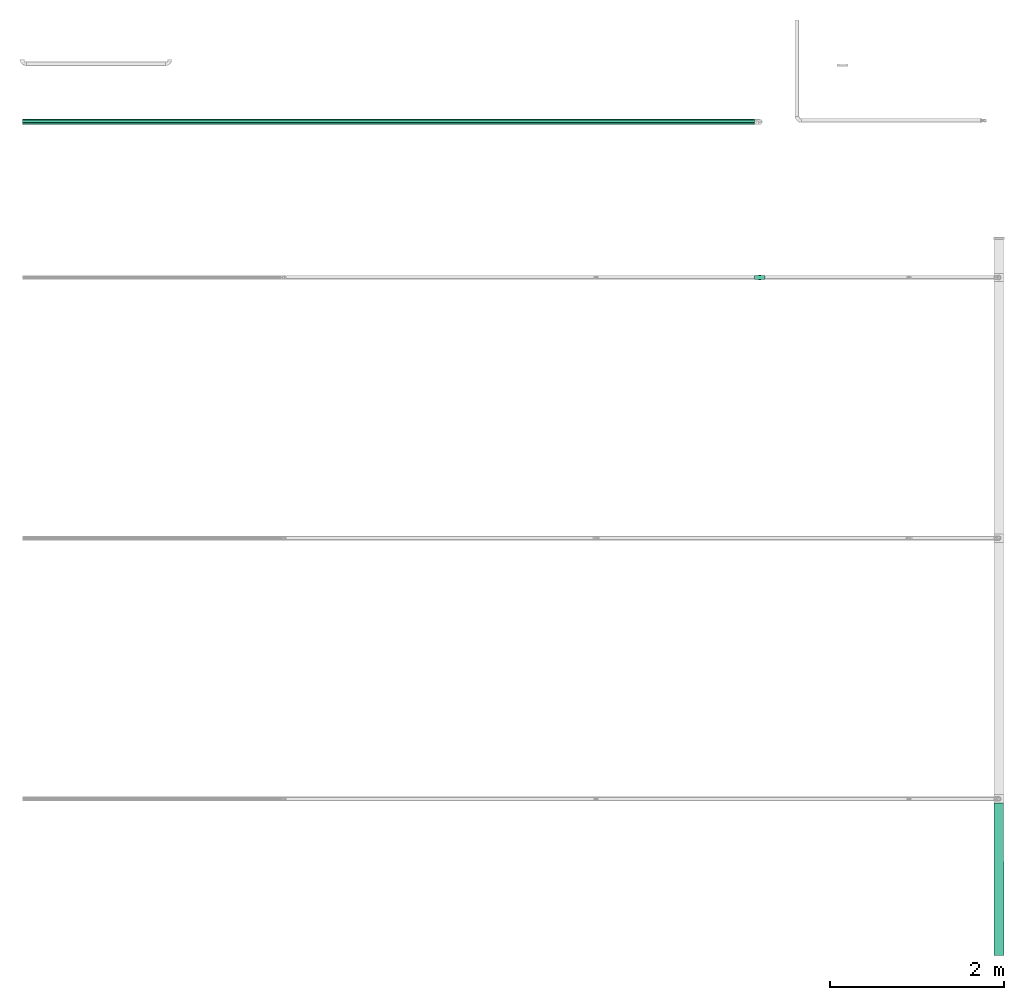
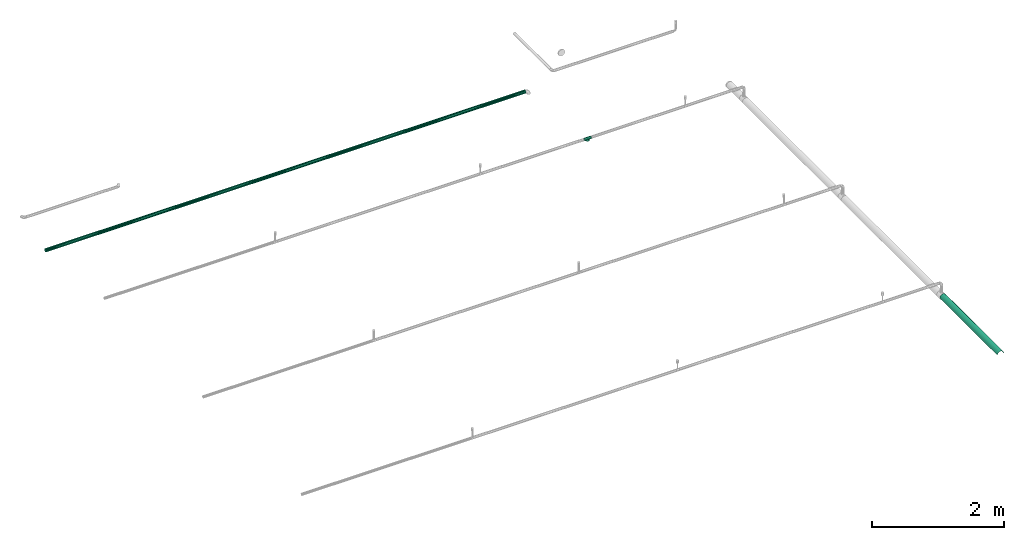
# One storey, part 14 of 14: 2 flow segments, 1 flow fitting.
"""IFC2X3 building model written with IfcOpenShell, lengths in millimetres."""

from ifc_helpers import new_model, entity, si_unit, converted_unit, derived_unit, direction, frame, origin_with_axes, place, context, subcontext, project, spatial, open_shell, faceted_brep, surface_model, source, transform, mapped, type_object, element, save


model = new_model("IFC2X3")

# Units and contexts
model_context = context("Model", 3, precision=0.01, world=frame((0.0, 4.29681676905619e-09, 0.0)), true_north=direction((4.01073788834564e-13, 1.0)))
plan_context = context("Plan", 3, precision=0.01, world=frame((0.0, 4.29681676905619e-09, 0.0)), true_north=direction((4.01073788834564e-13, 1.0)))
body_context = subcontext(model_context, "Body", "Model", "MODEL_VIEW")
ifc_project = project(units=[converted_unit("PLANEANGLEUNIT", "DEGREE", entity("IfcPositiveLengthMeasure", 0.0174532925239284), si_unit("PLANEANGLEUNIT", "RADIAN"), dimensions=[0, 0, 0, 0, 0, 0, 0]), si_unit("AREAUNIT", "SQUARE_METRE"), si_unit("LENGTHUNIT", "METRE", prefix="MILLI"), si_unit("MASSUNIT", "GRAM", prefix="KILO"), si_unit("POWERUNIT", "WATT"), si_unit("PRESSUREUNIT", "PASCAL"), si_unit("FORCEUNIT", "NEWTON", prefix="KILO"), si_unit("ELECTRICVOLTAGEUNIT", "VOLT"), si_unit("ELECTRICCURRENTUNIT", "AMPERE"), si_unit("THERMODYNAMICTEMPERATUREUNIT", "DEGREE_CELSIUS"), si_unit("TIMEUNIT", "SECOND"), si_unit("VOLUMEUNIT", "CUBIC_METRE"), derived_unit("LINEARVELOCITYUNIT", [(si_unit("LENGTHUNIT", "METRE"), 1), (si_unit("TIMEUNIT", "SECOND"), -1)]), derived_unit("VOLUMETRICFLOWRATEUNIT", [(si_unit("VOLUMEUNIT", "CUBIC_METRE"), 1), (si_unit("TIMEUNIT", "SECOND"), -1)]), derived_unit("THERMALTRANSMITTANCEUNIT", [(si_unit("POWERUNIT", "WATT"), 1), (si_unit("THERMODYNAMICTEMPERATUREUNIT", "KELVIN"), -1), (si_unit("AREAUNIT", "SQUARE_METRE"), -1)]), derived_unit("SOUNDPRESSUREUNIT", [(si_unit("PRESSUREUNIT", "PASCAL"), 1)])], contexts=[model_context, plan_context])

# Site, building, storey
site_placement = place(None, frame((0.0, -4.29681676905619e-09, 0.0), z_axis=(0.0, 0.0, 1.0), x_axis=(1.0, 0.0, 0.0)))
site = spatial("IfcSite", under=ifc_project, at=site_placement, CompositionType="ELEMENT")
building_placement = place(site_placement, frame((0.0, 4.29681676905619e-09, 0.0), z_axis=(0.0, 0.0, 1.0), x_axis=(1.0, 0.0, 0.0)))
building = spatial("IfcBuilding", under=site, at=building_placement, Name="mc-building", CompositionType="ELEMENT")
storey_placement = place(building_placement, frame((0.0, 0.0, 204000.0), z_axis=(0.0, 0.0, 1.0), x_axis=(1.0, 0.0, 0.0)))
storey = spatial("IfcBuildingStorey", under=building, at=storey_placement, Name="Nivå D", CompositionType="ELEMENT", Elevation=204000.0)

# Flow fitting
pipe_fitting_type = type_object("IfcPipeFittingType", Name="magi_pipe_fe_tee_centric_90_NOR", PredefinedType="JUNCTION")
shared_shape = source(origin_with_axes(), body_context, "Body", "SurfaceModel", [
    surface_model("IfcShellBasedSurfaceModel", [(-60.4, 0.0, -24.2), (-60.4, -6.26342, -23.37541), (-60.4, 6.26342, -23.37541), (-60.4, 12.1, -20.95781), (-60.4, 17.11198, -17.11198), (-60.4, 20.95781, -12.1), (-60.4, -23.37541, -6.26342), (-60.4, 23.37541, -6.26342), (-60.4, -12.1, -20.95781), (-60.4, -17.11198, -17.11198), (-60.4, -20.95781, -12.1), (-60.4, -24.2, 0.0), (-60.4, -23.37541, 6.26342), (-60.4, 20.95781, 12.1), (-60.4, 23.37541, 6.26342), (-60.4, 24.2, 0.0), (-60.4, 12.1, 20.95781), (-60.4, 17.11198, 17.11198), (-60.4, -17.11198, 17.11198), (-60.4, 6.26342, 23.37541), (-60.4, -20.95781, 12.1), (-60.4, -12.1, 20.95781), (-60.4, -6.26342, 23.37541), (-60.4, 0.0, 24.2), (60.4, 6.26342, -23.37541), (60.4, -6.26342, -23.37541), (60.4, 0.0, -24.2), (60.4, 17.11198, -17.11198), (60.4, 12.1, -20.95781), (60.4, -23.37541, -6.26342), (60.4, 20.95781, -12.1), (60.4, 23.37541, -6.26342), (60.4, -17.11198, -17.11198), (60.4, -12.1, -20.95781), (60.4, -20.95781, -12.1), (60.4, -24.2, 0.0), (60.4, 24.2, 0.0), (60.4, 23.37541, 6.26342), (60.4, 20.95781, 12.1), (60.4, -23.37541, 6.26342), (60.4, -17.11198, 17.11198), (60.4, 12.1, 20.95781), (60.4, 17.11198, 17.11198), (60.4, 6.26342, 23.37541), (60.4, -20.95781, 12.1), (60.4, -12.1, 20.95781), (60.4, 0.0, 24.2), (60.4, -6.26342, 23.37541), (29.66166, -23.52475, 5.67681), (60.4, -22.16661, 9.18171), (28.171, -21.61493, 10.88277), (28.91633, -22.56984, 8.27979), (30.2, -24.2, 0.0), (23.50262, -15.0324, 18.96489), (60.4, -14.60599, 19.0349), (26.01203, -18.71432, 15.34322), (60.4, -19.0349, 14.60599), (24.75732, -16.87336, 17.15405), (27.09151, -20.16463, 13.11299), (-28.171, -21.61493, 10.88277), (-27.09151, -20.16463, 13.11299), (-60.4, -22.16661, 9.18171), (-28.91633, -22.56984, 8.27979), (-29.66166, -23.52475, 5.67681), (-30.2, -24.2, 0.0), (20.98199, -10.66977, 21.72086), (60.4, -9.18171, 22.16661), (-23.50262, -15.0324, 18.96489), (-20.98199, -10.66977, 21.72086), (-24.75732, -16.87336, 17.15405), (-60.4, -19.0349, 14.60599), (-60.4, -14.60599, 19.0349), (-60.4, -9.18171, 22.16661), (-26.01203, -18.71432, 15.34322), (18.92265, -5.62732, 23.53664), (18.06654, 0.0, 24.2), (-18.06654, 0.0, 24.2), (-18.92265, -5.62732, 23.53664), (18.92265, -5.62732, -23.53664), (18.06654, 0.0, -24.2), (-27.09151, -20.16463, -13.11299), (-60.4, -19.0349, -14.60599), (-26.01203, -18.71432, -15.34322), (-20.98199, -10.66977, -21.72086), (-60.4, -9.18171, -22.16661), (-18.06654, 0.0, -24.2), (-18.92265, -5.62732, -23.53664), (-28.91633, -22.56984, -8.27979), (-29.66166, -23.52475, -5.67681), (-23.50262, -15.0324, -18.96489), (-60.4, -14.60599, -19.0349), (60.4, -9.18171, -22.16661), (27.09151, -20.16463, -13.11299), (60.4, -19.0349, -14.60599), (23.50262, -15.0324, -18.96489), (60.4, -14.60599, -19.0349), (24.75732, -16.87336, -17.15405), (28.171, -21.61493, -10.88277), (60.4, -22.16661, -9.18171), (20.98199, -10.66977, -21.72086), (26.01203, -18.71432, -15.34322), (29.66166, -23.52475, -5.67681), (28.91633, -22.56984, -8.27979), (-24.75732, -16.87336, -17.15405), (-60.4, -22.16661, -9.18171), (-28.171, -21.61493, -10.88277), (-21.35462, -36.3, -21.35462), (0.0, -36.3, -30.2), (7.81634, -36.3, -29.17096), (15.1, -36.3, -26.15397), (-30.2, -36.3, 0.0), (26.15397, -36.3, -15.1), (21.35462, -36.3, -21.35462), (26.15397, -36.3, 15.1), (-7.81634, -36.3, -29.17096), (-15.1, -36.3, -26.15397), (-29.17096, -36.3, -7.81634), (-26.15397, -36.3, -15.1), (29.17096, -36.3, -7.81634), (30.2, -36.3, 0.0), (29.17096, -36.3, 7.81634), (7.81634, -36.3, 29.17096), (15.1, -36.3, 26.15397), (21.35462, -36.3, 21.35462), (-21.35462, -36.3, 21.35462), (-26.15397, -36.3, 15.1), (-29.17096, -36.3, 7.81634), (-15.1, -36.3, 26.15397), (0.0, -36.3, 30.2), (-7.81634, -36.3, 29.17096), (-12.51737, 0.0, 27.48373), (-6.40442, 0.0, 29.5131), (-0.00041, 0.0, 30.2), (12.5156, 0.0, 27.48454), (6.403, 0.0, 29.51341), (12.5156, 0.0, -27.48454), (6.403, 0.0, -29.51341), (-0.00041, 0.0, -30.2), (-12.51737, 0.0, -27.48373), (-6.40442, 0.0, -29.5131)], [open_shell([[[0, 1, 2]], [[3, 2, 4]], [[5, 2, 6]], [[4, 2, 5]], [[7, 5, 6]], [[8, 9, 1]], [[10, 1, 9]], [[1, 10, 2]], [[10, 6, 2]], [[6, 11, 7]], [[11, 12, 7]], [[13, 14, 15]], [[13, 15, 12]], [[16, 17, 18]], [[12, 17, 13]], [[19, 16, 18]], [[20, 18, 12]], [[18, 17, 12]], [[21, 22, 18]], [[23, 18, 22]], [[18, 23, 19]], [[7, 12, 15]], [[24, 25, 26]], [[27, 24, 28]], [[29, 24, 30]], [[30, 24, 27]], [[29, 30, 31]], [[25, 32, 33]], [[32, 25, 34]], [[24, 34, 25]], [[24, 29, 34]], [[31, 35, 29]], [[31, 36, 35]], [[36, 37, 38]], [[39, 36, 38]], [[40, 38, 41]], [[41, 38, 42]], [[40, 41, 43]], [[39, 40, 44]], [[39, 38, 40]], [[45, 46, 47]], [[46, 45, 40]], [[43, 46, 40]], [[36, 39, 35]], [[35, 39, 48]], [[49, 50, 51]], [[48, 52, 35]], [[39, 49, 51]], [[53, 40, 54]], [[49, 44, 50]], [[54, 45, 53]], [[40, 55, 56]], [[55, 40, 57]], [[39, 51, 48]], [[44, 58, 50]], [[20, 59, 60]], [[40, 53, 57]], [[59, 61, 62]], [[12, 62, 61]], [[63, 11, 64]], [[11, 63, 12]], [[12, 63, 62]], [[65, 45, 66]], [[58, 56, 55]], [[56, 58, 44]], [[67, 68, 21]], [[69, 67, 18]], [[70, 20, 60]], [[18, 67, 71]], [[68, 72, 21]], [[70, 60, 73]], [[18, 73, 69]], [[53, 45, 65]], [[74, 46, 75]], [[66, 74, 65]], [[74, 66, 47]], [[74, 47, 46]], [[73, 18, 70]], [[75, 46, 43]], [[38, 37, 14]], [[17, 41, 42]], [[13, 42, 38]], [[43, 41, 16]], [[15, 37, 36]], [[23, 76, 19]], [[67, 21, 71]], [[22, 77, 23]], [[72, 77, 22]], [[23, 77, 76]], [[76, 75, 19]], [[77, 72, 68]], [[43, 19, 75]], [[16, 19, 43]], [[16, 41, 17]], [[13, 17, 42]], [[14, 13, 38]], [[37, 15, 14]], [[59, 20, 61]], [[27, 4, 30]], [[31, 7, 36]], [[31, 30, 5]], [[3, 27, 28]], [[26, 25, 78]], [[26, 79, 24]], [[79, 26, 78]], [[80, 81, 82]], [[28, 24, 2]], [[83, 8, 84]], [[79, 85, 24]], [[7, 31, 5]], [[30, 4, 5]], [[4, 27, 3]], [[36, 7, 15]], [[0, 85, 86]], [[6, 87, 88]], [[89, 9, 90]], [[86, 83, 84]], [[85, 0, 2]], [[0, 86, 1]], [[84, 1, 86]], [[2, 3, 28]], [[85, 2, 24]], [[25, 91, 78]], [[34, 92, 93]], [[32, 94, 95]], [[94, 32, 96]], [[97, 34, 98]], [[33, 94, 99]], [[92, 100, 93]], [[29, 35, 101]], [[81, 80, 10]], [[97, 98, 102]], [[52, 101, 35]], [[32, 100, 96]], [[102, 29, 101]], [[29, 102, 98]], [[89, 8, 83]], [[94, 33, 95]], [[89, 90, 8]], [[9, 103, 82]], [[9, 82, 81]], [[100, 32, 93]], [[78, 91, 99]], [[34, 97, 92]], [[9, 89, 103]], [[88, 64, 11]], [[6, 104, 87]], [[105, 104, 10]], [[6, 88, 11]], [[105, 10, 80]], [[104, 105, 87]], [[33, 99, 91]], [[106, 107, 108]], [[109, 106, 108]], [[110, 109, 111]], [[111, 109, 112]], [[113, 110, 111]], [[114, 106, 115]], [[114, 107, 106]], [[106, 116, 117]], [[116, 106, 110]], [[109, 110, 106]], [[111, 118, 119]], [[119, 120, 113]], [[121, 110, 113]], [[122, 121, 113]], [[122, 113, 123]], [[110, 121, 124]], [[110, 125, 126]], [[124, 125, 110]], [[127, 128, 129]], [[128, 127, 124]], [[121, 128, 124]], [[113, 111, 119]], [[110, 126, 63]], [[63, 64, 110]], [[63, 126, 59]], [[67, 125, 124]], [[68, 124, 127]], [[126, 125, 59]], [[130, 127, 129]], [[73, 59, 125]], [[67, 124, 68]], [[125, 67, 73]], [[77, 130, 76]], [[68, 127, 77]], [[127, 130, 77]], [[131, 130, 129]], [[132, 131, 128]], [[131, 129, 128]], [[122, 133, 121]], [[121, 134, 128]], [[65, 122, 123]], [[48, 120, 119]], [[123, 113, 53]], [[120, 50, 113]], [[119, 52, 48]], [[122, 74, 133]], [[133, 134, 121]], [[75, 133, 74]], [[48, 50, 120]], [[122, 65, 74]], [[65, 123, 53]], [[50, 55, 113]], [[113, 55, 53]], [[128, 134, 132]], [[52, 119, 101]], [[111, 97, 118]], [[119, 118, 101]], [[99, 112, 109]], [[135, 109, 108]], [[111, 112, 94]], [[136, 108, 107]], [[97, 101, 118]], [[100, 111, 94]], [[97, 111, 100]], [[99, 109, 78]], [[78, 135, 79]], [[109, 135, 78]], [[94, 112, 99]], [[135, 108, 136]], [[107, 137, 136]], [[106, 83, 115]], [[115, 138, 114]], [[89, 106, 117]], [[116, 110, 88]], [[64, 88, 110]], [[117, 116, 105]], [[105, 116, 88]], [[139, 114, 138]], [[86, 85, 138]], [[137, 107, 139]], [[105, 82, 117]], [[86, 138, 115]], [[83, 86, 115]], [[83, 106, 89]], [[117, 82, 89]], [[139, 107, 114]], [[76, 130, 75]], [[134, 75, 130]], [[134, 130, 132]], [[132, 130, 131]], [[133, 75, 134]], [[138, 137, 139]], [[136, 137, 79]], [[137, 138, 79]], [[79, 138, 85]], [[135, 136, 79]]])]),
])
flow_fitting_placement = place(storey_placement, frame((606484.07576, 696802.46783, 6140.0), z_axis=(0.0, -1.0, 0.0), x_axis=(1.0, 0.0, 0.0)))
element("IfcFlowFitting", 1, at=flow_fitting_placement, inside=storey, type_object=pipe_fitting_type, Name="magi_pipe_fe_tee_centric_90_NOR", context=body_context, shape_type="MappedRepresentation", body=[
    mapped(shared_shape, transform((0.0, 0.0, 0.0), scale=1.0)),
])

# Flow segments
pipe_segment_type = type_object("IfcPipeSegmentType", Name="Stålrør normaltykke", PredefinedType="RIGIDSEGMENT")
flow_segment_1_placement = place(storey_placement, frame((582569.38657, 698594.06783, 5945.0), z_axis=(0.0, 0.0, 1.0), x_axis=(1.0, 0.0, 0.0)))
element("IfcFlowSegment", 2, at=flow_segment_1_placement, inside=storey, type_object=pipe_segment_type, Name="Stålrør normaltykke", context=body_context, shape_type="Brep", body=[
    faceted_brep([(15430.6134299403, 27.673097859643, -4.87951379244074), (15430.6134299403, 28.1, 0.0), (23854.3, 28.1, 0.0), (23854.3, 27.673097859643, -4.87951379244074), (15430.6134299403, 26.405362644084, -9.61076602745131), (23854.3, 26.405362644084, -9.61076602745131), (15430.6134299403, 24.3353138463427, -14.05), (23854.3, 24.3353138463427, -14.05), (15430.6134299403, 21.5258488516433, -18.0623318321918), (23854.3, 21.5258488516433, -18.0623318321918), (15430.6134299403, 18.0623318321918, -21.5258488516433), (23854.3, 18.0623318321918, -21.5258488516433), (15430.6134299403, 14.05, -24.3353138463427), (23854.3, 14.05, -24.3353138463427), (15430.6134299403, 9.61076602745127, -26.405362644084), (23854.3, 9.61076602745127, -26.405362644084), (15430.6134299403, 4.87951379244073, -27.6730978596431), (23854.3, 4.87951379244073, -27.6730978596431), (15430.6134299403, -5.16188625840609e-15, -28.1), (23854.3, -5.16188625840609e-15, -28.1), (15430.6134299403, -4.87951379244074, -27.673097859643), (23854.3, -4.87951379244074, -27.673097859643), (15430.6134299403, -9.61076602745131, -26.405362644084), (23854.3, -9.61076602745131, -26.405362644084), (15430.6134299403, -14.05, -24.3353138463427), (23854.3, -14.05, -24.3353138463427), (15430.6134299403, -18.0623318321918, -21.5258488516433), (23854.3, -18.0623318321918, -21.5258488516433), (15430.6134299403, -21.5258488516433, -18.0623318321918), (23854.3, -21.5258488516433, -18.0623318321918), (15430.6134299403, -24.3353138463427, -14.05), (23854.3, -24.3353138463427, -14.05), (15430.6134299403, -26.405362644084, -9.61076602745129), (23854.3, -26.405362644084, -9.61076602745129), (15430.6134299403, -27.6730978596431, -4.87951379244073), (23854.3, -27.6730978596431, -4.87951379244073), (15430.6134299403, -28.1, 3.44125750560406e-15), (23854.3, -28.1, 3.44125750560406e-15), (15430.6134299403, -27.673097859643, 4.87951379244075), (23854.3, -27.673097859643, 4.87951379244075), (15430.6134299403, -26.405362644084, 9.6107660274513), (23854.3, -26.405362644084, 9.6107660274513), (15430.6134299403, -24.3353138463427, 14.05), (23854.3, -24.3353138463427, 14.05), (15430.6134299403, -21.5258488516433, 18.0623318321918), (23854.3, -21.5258488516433, 18.0623318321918), (15430.6134299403, -18.0623318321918, 21.5258488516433), (23854.3, -18.0623318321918, 21.5258488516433), (15430.6134299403, -14.05, 24.3353138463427), (23854.3, -14.05, 24.3353138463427), (15430.6134299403, -9.61076602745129, 26.405362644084), (23854.3, -9.61076602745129, 26.405362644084), (15430.6134299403, -4.87951379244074, 27.673097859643), (23854.3, -4.87951379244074, 27.673097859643), (15430.6134299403, 1.72062875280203e-15, 28.1), (23854.3, 1.72062875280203e-15, 28.1), (15430.6134299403, 4.87951379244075, 27.673097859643), (23854.3, 4.87951379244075, 27.673097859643), (15430.6134299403, 9.61076602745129, 26.405362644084), (23854.3, 9.61076602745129, 26.405362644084), (15430.6134299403, 14.05, 24.3353138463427), (23854.3, 14.05, 24.3353138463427), (15430.6134299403, 18.0623318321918, 21.5258488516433), (23854.3, 18.0623318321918, 21.5258488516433), (15430.6134299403, 21.5258488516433, 18.0623318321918), (23854.3, 21.5258488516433, 18.0623318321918), (15430.6134299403, 24.3353138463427, 14.05), (23854.3, 24.3353138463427, 14.05), (15430.6134299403, 26.405362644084, 9.61076602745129), (23854.3, 26.405362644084, 9.61076602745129), (15430.6134299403, 27.673097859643, 4.87951379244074), (23854.3, 27.673097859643, 4.87951379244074), (15430.6134299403, 30.1, 0.0), (15430.6134299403, 29.6427133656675, -5.2268101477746), (23854.3, 29.6427133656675, -5.2268101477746), (23854.3, 30.1, 0.0), (15430.6134299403, 29.6427133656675, 5.2268101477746), (23854.3, 29.6427133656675, 5.2268101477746), (15430.6134299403, 28.2847478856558, 10.2948063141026), (23854.3, 28.2847478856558, 10.2948063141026), (15430.6134299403, 26.0673646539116, 15.05), (23854.3, 26.0673646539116, 15.05), (15430.6134299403, 23.0579377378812, 19.3479070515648), (23854.3, 23.0579377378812, 19.3479070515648), (15430.6134299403, 19.3479070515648, 23.0579377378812), (23854.3, 19.3479070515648, 23.0579377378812), (15430.6134299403, 15.05, 26.0673646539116), (23854.3, 15.05, 26.0673646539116), (15430.6134299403, 10.2948063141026, 28.2847478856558), (23854.3, 10.2948063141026, 28.2847478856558), (15430.6134299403, 5.22681014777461, 29.6427133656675), (23854.3, 5.22681014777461, 29.6427133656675), (15430.6134299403, 1.84309343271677e-15, 30.1), (23854.3, 1.84309343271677e-15, 30.1), (15430.6134299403, -5.2268101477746, 29.6427133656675), (23854.3, -5.2268101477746, 29.6427133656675), (15430.6134299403, -10.2948063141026, 28.2847478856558), (23854.3, -10.2948063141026, 28.2847478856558), (15430.6134299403, -15.05, 26.0673646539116), (23854.3, -15.05, 26.0673646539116), (15430.6134299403, -19.3479070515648, 23.0579377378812), (23854.3, -19.3479070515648, 23.0579377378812), (15430.6134299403, -23.0579377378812, 19.3479070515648), (23854.3, -23.0579377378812, 19.3479070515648), (15430.6134299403, -26.0673646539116, 15.05), (23854.3, -26.0673646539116, 15.05), (15430.6134299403, -28.2847478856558, 10.2948063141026), (23854.3, -28.2847478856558, 10.2948063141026), (15430.6134299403, -29.6427133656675, 5.22681014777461), (23854.3, -29.6427133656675, 5.22681014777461), (15430.6134299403, -30.1, 3.68618686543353e-15), (23854.3, -30.1, 3.68618686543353e-15), (15430.6134299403, -29.6427133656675, -5.22681014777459), (23854.3, -29.6427133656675, -5.22681014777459), (15430.6134299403, -28.2847478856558, -10.2948063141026), (23854.3, -28.2847478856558, -10.2948063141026), (15430.6134299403, -26.0673646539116, -15.05), (23854.3, -26.0673646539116, -15.05), (15430.6134299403, -23.0579377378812, -19.3479070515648), (23854.3, -23.0579377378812, -19.3479070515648), (15430.6134299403, -19.3479070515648, -23.0579377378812), (23854.3, -19.3479070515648, -23.0579377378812), (15430.6134299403, -15.05, -26.0673646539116), (23854.3, -15.05, -26.0673646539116), (15430.6134299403, -10.2948063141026, -28.2847478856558), (23854.3, -10.2948063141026, -28.2847478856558), (15430.6134299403, -5.2268101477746, -29.6427133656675), (23854.3, -5.2268101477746, -29.6427133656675), (15430.6134299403, -5.5292802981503e-15, -30.1), (23854.3, -5.5292802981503e-15, -30.1), (15430.6134299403, 5.22681014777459, -29.6427133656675), (23854.3, 5.22681014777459, -29.6427133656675), (15430.6134299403, 10.2948063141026, -28.2847478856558), (23854.3, 10.2948063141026, -28.2847478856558), (15430.6134299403, 15.05, -26.0673646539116), (23854.3, 15.05, -26.0673646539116), (15430.6134299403, 19.3479070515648, -23.0579377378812), (23854.3, 19.3479070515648, -23.0579377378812), (15430.6134299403, 23.0579377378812, -19.3479070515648), (23854.3, 23.0579377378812, -19.3479070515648), (15430.6134299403, 26.0673646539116, -15.05), (23854.3, 26.0673646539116, -15.05), (15430.6134299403, 28.2847478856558, -10.2948063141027), (23854.3, 28.2847478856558, -10.2948063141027)], [[[0, 1, 2, 3]], [[4, 0, 3, 5]], [[6, 4, 5, 7]], [[8, 6, 7, 9]], [[10, 8, 9, 11]], [[12, 10, 11, 13]], [[14, 12, 13, 15]], [[16, 14, 15, 17]], [[18, 16, 17, 19]], [[20, 18, 19, 21]], [[22, 20, 21, 23]], [[24, 22, 23, 25]], [[26, 24, 25, 27]], [[28, 26, 27, 29]], [[30, 28, 29, 31]], [[32, 30, 31, 33]], [[34, 32, 33, 35]], [[36, 34, 35, 37]], [[38, 36, 37, 39]], [[40, 38, 39, 41]], [[42, 40, 41, 43]], [[44, 42, 43, 45]], [[46, 44, 45, 47]], [[48, 46, 47, 49]], [[50, 48, 49, 51]], [[52, 50, 51, 53]], [[54, 52, 53, 55]], [[56, 54, 55, 57]], [[58, 56, 57, 59]], [[60, 58, 59, 61]], [[62, 60, 61, 63]], [[64, 62, 63, 65]], [[66, 64, 65, 67]], [[68, 66, 67, 69]], [[70, 68, 69, 71]], [[1, 70, 71, 2]], [[72, 73, 74, 75]], [[76, 72, 75, 77]], [[78, 76, 77, 79]], [[80, 78, 79, 81]], [[82, 80, 81, 83]], [[84, 82, 83, 85]], [[86, 84, 85, 87]], [[88, 86, 87, 89]], [[90, 88, 89, 91]], [[92, 90, 91, 93]], [[94, 92, 93, 95]], [[96, 94, 95, 97]], [[98, 96, 97, 99]], [[100, 98, 99, 101]], [[102, 100, 101, 103]], [[104, 102, 103, 105]], [[106, 104, 105, 107]], [[108, 106, 107, 109]], [[110, 108, 109, 111]], [[112, 110, 111, 113]], [[114, 112, 113, 115]], [[116, 114, 115, 117]], [[118, 116, 117, 119]], [[120, 118, 119, 121]], [[122, 120, 121, 123]], [[124, 122, 123, 125]], [[126, 124, 125, 127]], [[128, 126, 127, 129]], [[130, 128, 129, 131]], [[132, 130, 131, 133]], [[134, 132, 133, 135]], [[136, 134, 135, 137]], [[138, 136, 137, 139]], [[140, 138, 139, 141]], [[142, 140, 141, 143]], [[73, 142, 143, 74]], [[75, 74, 143, 141, 139, 137, 135, 133, 131, 129, 127, 125, 123, 121, 119, 117, 115, 113, 111, 109, 107, 105, 103, 101, 99, 97, 95, 93, 91, 89, 87, 85, 83, 81, 79, 77], [2, 71, 69, 67, 65, 63, 61, 59, 57, 55, 53, 51, 49, 47, 45, 43, 41, 39, 37, 35, 33, 31, 29, 27, 25, 23, 21, 19, 17, 15, 13, 11, 9, 7, 5, 3]], [[76, 78, 80, 82, 84, 86, 88, 90, 92, 94, 96, 98, 100, 102, 104, 106, 108, 110, 112, 114, 116, 118, 120, 122, 124, 126, 128, 130, 132, 134, 136, 138, 140, 142, 73, 72], [4, 6, 8, 10, 12, 14, 16, 18, 20, 22, 24, 26, 28, 30, 32, 34, 36, 38, 40, 42, 44, 46, 48, 50, 52, 54, 56, 58, 60, 62, 64, 66, 68, 70, 1, 0]]], orient=[[False], [False], [False], [False], [False], [False], [False], [False], [False], [False], [False], [False], [False], [False], [False], [False], [False], [False], [False], [False], [False], [False], [False], [False], [False], [False], [False], [False], [False], [False], [False], [False], [False], [False], [False], [False], [False], [False], [False], [False], [False], [False], [False], [False], [False], [False], [False], [False], [False], [False], [False], [False], [False], [False], [False], [False], [False], [False], [False], [False], [False], [False], [False], [False], [False], [False], [False], [False], [False], [False], [False], [False], [False, False], [False, False]]),
])
flow_segment_2_placement = place(storey_placement, frame((609234.47302, 690754.06783, 5902.60000000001), z_axis=(0.0, 0.0, 1.0), x_axis=(0.0, -1.0, 0.0)))
element("IfcFlowSegment", 3, at=flow_segment_2_placement, inside=storey, type_object=pipe_segment_type, Name="Stålrør normaltykke", context=body_context, shape_type="Brep", body=[
    faceted_brep([(1754.06783000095, 55.1, 0.0), (1754.06783000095, 54.8725294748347, -2.60000000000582), (0.0, 54.8725294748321, -2.60000000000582), (0.0, 55.1, 0.0), (0.0, -54.8725294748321, -2.60000000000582), (1754.06783000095, -54.8725294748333, -2.60000000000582), (1754.06783000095, -55.1, 6.74780386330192e-15), (0.0, -55.1, 6.74780386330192e-15), (1754.06783000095, -54.2629071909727, 9.56801458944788), (0.0, -54.2629071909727, 9.56801458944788), (1754.06783000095, -51.7770634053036, 18.8453098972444), (0.0, -51.7770634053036, 18.8453098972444), (1754.06783000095, -47.7179997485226, 27.55), (0.0, -47.7179997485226, 27.55), (1754.06783000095, -42.2090488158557, 35.4175972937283), (0.0, -42.2090488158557, 35.4175972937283), (1754.06783000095, -35.4175972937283, 42.2090488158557), (0.0, -35.4175972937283, 42.2090488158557), (1754.06783000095, -27.55, 47.7179997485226), (0.0, -27.55, 47.7179997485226), (1754.06783000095, -18.8453098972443, 51.7770634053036), (0.0, -18.8453098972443, 51.7770634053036), (1754.06783000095, -9.56801458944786, 54.2629071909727), (0.0, -9.56801458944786, 54.2629071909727), (1754.06783000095, 3.37390193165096e-15, 55.1), (0.0, 3.37390193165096e-15, 55.1), (1754.06783000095, 9.56801458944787, 54.2629071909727), (0.0, 9.56801458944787, 54.2629071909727), (1754.06783000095, 18.8453098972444, 51.7770634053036), (0.0, 18.8453098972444, 51.7770634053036), (1754.06783000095, 27.55, 47.7179997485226), (0.0, 27.55, 47.7179997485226), (1754.06783000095, 35.4175972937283, 42.2090488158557), (0.0, 35.4175972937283, 42.2090488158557), (1754.06783000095, 42.2090488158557, 35.4175972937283), (0.0, 42.2090488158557, 35.4175972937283), (1754.06783000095, 47.7179997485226, 27.55), (0.0, 47.7179997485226, 27.55), (1754.06783000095, 51.7770634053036, 18.8453098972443), (0.0, 51.7770634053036, 18.8453098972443), (1754.06783000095, 54.2629071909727, 9.56801458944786), (0.0, 54.2629071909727, 9.56801458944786), (0.0, 56.8725294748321, -2.60000000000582), (1754.06783000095, 57.5233168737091, -2.60000000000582), (1754.06783000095, 57.1, 0.0), (0.0, 57.1, 0.0), (1754.06783000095, 56.2325226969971, 9.91531094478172), (0.0, 56.2325226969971, 9.91531094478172), (1754.06783000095, 53.6564486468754, 19.5293501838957), (0.0, 53.6564486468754, 19.5293501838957), (1754.06783000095, 49.4500505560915, 28.55), (0.0, 49.4500505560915, 28.55), (1754.06783000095, 43.7411377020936, 36.7031725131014), (0.0, 43.7411377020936, 36.7031725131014), (1754.06783000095, 36.7031725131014, 43.7411377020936), (0.0, 36.7031725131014, 43.7411377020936), (1754.06783000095, 28.55, 49.4500505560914), (0.0, 28.55, 49.4500505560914), (1754.06783000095, 19.5293501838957, 53.6564486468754), (0.0, 19.5293501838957, 53.6564486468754), (1754.06783000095, 9.91531094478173, 56.2325226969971), (0.0, 9.91531094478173, 56.2325226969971), (1754.06783000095, 3.49636661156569e-15, 57.1), (0.0, 3.49636661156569e-15, 57.1), (1754.06783000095, -9.91531094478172, 56.2325226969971), (0.0, -9.91531094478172, 56.2325226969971), (1754.06783000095, -19.5293501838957, 53.6564486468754), (0.0, -19.5293501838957, 53.6564486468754), (1754.06783000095, -28.55, 49.4500505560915), (0.0, -28.55, 49.4500505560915), (1754.06783000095, -36.7031725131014, 43.7411377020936), (0.0, -36.7031725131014, 43.7411377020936), (1754.06783000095, -43.7411377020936, 36.7031725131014), (0.0, -43.7411377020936, 36.7031725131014), (1754.06783000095, -49.4500505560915, 28.55), (0.0, -49.4500505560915, 28.55), (1754.06783000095, -53.6564486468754, 19.5293501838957), (0.0, -53.6564486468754, 19.5293501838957), (1754.06783000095, -56.2325226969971, 9.91531094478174), (0.0, -56.2325226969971, 9.91531094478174), (1754.06783000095, -57.1, 6.99273322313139e-15), (0.0, -57.1, 6.99273322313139e-15), (1754.06783000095, -57.5233168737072, -2.60000000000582), (0.0, -56.8725294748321, -2.60000000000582), (1754.06783000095, -56.8725294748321, -2.60000000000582), (1754.06783000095, 56.8725294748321, -2.60000000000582)], [[[0, 1, 2, 3]], [[4, 5, 6, 7]], [[6, 8, 9, 7]], [[8, 10, 11, 9]], [[10, 12, 13, 11]], [[12, 14, 15, 13]], [[14, 16, 17, 15]], [[16, 18, 19, 17]], [[18, 20, 21, 19]], [[20, 22, 23, 21]], [[22, 24, 25, 23]], [[24, 26, 27, 25]], [[26, 28, 29, 27]], [[28, 30, 31, 29]], [[30, 32, 33, 31]], [[32, 34, 35, 33]], [[34, 36, 37, 35]], [[36, 38, 39, 37]], [[38, 40, 41, 39]], [[40, 0, 3, 41]], [[42, 43, 44, 45]], [[44, 46, 47, 45]], [[46, 48, 49, 47]], [[48, 50, 51, 49]], [[50, 52, 53, 51]], [[52, 54, 55, 53]], [[54, 56, 57, 55]], [[56, 58, 59, 57]], [[58, 60, 61, 59]], [[60, 62, 63, 61]], [[62, 64, 65, 63]], [[64, 66, 67, 65]], [[66, 68, 69, 67]], [[68, 70, 71, 69]], [[70, 72, 73, 71]], [[72, 74, 75, 73]], [[74, 76, 77, 75]], [[76, 78, 79, 77]], [[78, 80, 81, 79]], [[80, 82, 83, 81]], [[83, 4, 7, 9, 11, 13, 15, 17, 19, 21, 23, 25, 27, 29, 31, 33, 35, 37, 39, 41, 3, 2, 42, 45, 47, 49, 51, 53, 55, 57, 59, 61, 63, 65, 67, 69, 71, 73, 75, 77, 79, 81]], [[84, 80, 78, 76, 74, 72, 70, 68, 66, 64, 62, 60, 58, 56, 54, 52, 50, 48, 46, 44, 85, 1, 0, 40, 38, 36, 34, 32, 30, 28, 26, 24, 22, 20, 18, 16, 14, 12, 10, 8, 6, 5]], [[85, 42, 2, 1]], [[5, 4, 83, 84]]], orient=[[False], [False], [False], [False], [False], [False], [False], [False], [False], [False], [False], [False], [False], [False], [False], [False], [False], [False], [False], [False], [False], [False], [False], [False], [False], [False], [False], [False], [False], [False], [False], [False], [False], [False], [False], [False], [False], [False], [False], [False], [False], [False], [False], [False]]),
])

save(model, "model.ifc")
